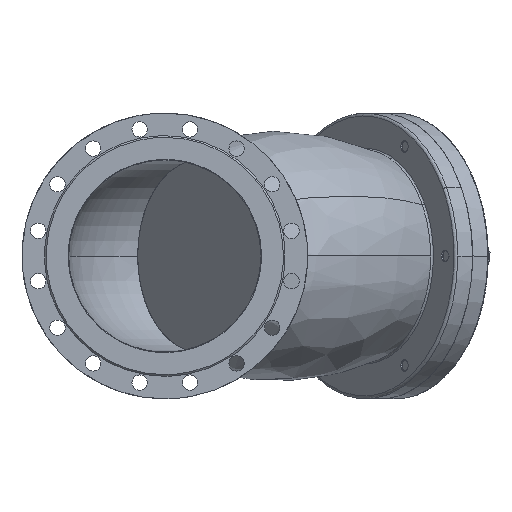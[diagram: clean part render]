
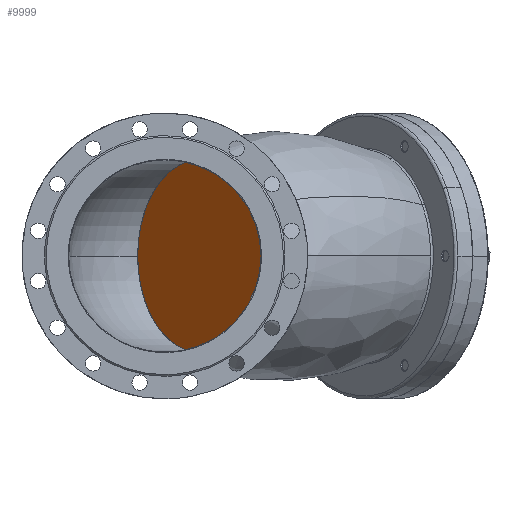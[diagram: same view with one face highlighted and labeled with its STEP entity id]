
A CAD part, left-side view. The second image highlights one B-rep face of the part: STEP entity #9999.
In plain terms, the highlighted planar face has unit normal (-0.643, 0.766, 0).
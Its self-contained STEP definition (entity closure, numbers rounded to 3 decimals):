
#692 = CARTESIAN_POINT ( 'NONE',  ( 324.696, -45.861, 178.239 ) ) ;
#716 = VERTEX_POINT ( 'NONE', #30792 ) ;
#809 = CARTESIAN_POINT ( 'NONE',  ( 177.069, -169.735, 72.959 ) ) ;
#2020 = CARTESIAN_POINT ( 'NONE',  ( 182.437, -165.231, -86.297 ) ) ;
#2260 = CARTESIAN_POINT ( 'NONE',  ( 420.126, 34.214, 96.635 ) ) ;
#2669 = EDGE_CURVE ( 'NONE', #9561, #716, #21433, .T. ) ;
#3252 = CARTESIAN_POINT ( 'NONE',  ( 297.651, -68.555, 180.226 ) ) ;
#3352 = CARTESIAN_POINT ( 'NONE',  ( 168.594, -176.847, 39.373 ) ) ;
#4185 = PLANE ( 'NONE',  #10291 ) ;
#5699 = CARTESIAN_POINT ( 'NONE',  ( 270.828, -91.062, 175.288 ) ) ;
#5805 = CARTESIAN_POINT ( 'NONE',  ( 165.301, -179.61, 4.273 ) ) ;
#7038 = ORIENTED_EDGE ( 'NONE', *, *, #23678, .F. ) ;
#8069 = CARTESIAN_POINT ( 'NONE',  ( 403.442, 20.215, 124.494 ) ) ;
#8192 = CARTESIAN_POINT ( 'NONE',  ( 245.258, -112.518, 163.613 ) ) ;
#8308 = CARTESIAN_POINT ( 'NONE',  ( 167.316, -177.919, -30.99 ) ) ;
#9561 = VERTEX_POINT ( 'NONE', #2020 ) ;
#9999 = ADVANCED_FACE ( 'NONE', ( #15542 ), #4185, .F. ) ;
#10291 = AXIS2_PLACEMENT_3D ( 'NONE', #22008, #27044, #11953 ) ;
#10292 = EDGE_LOOP ( 'NONE', ( #7038, #31524 ) ) ;
#10718 = CARTESIAN_POINT ( 'NONE',  ( 382.916, 2.991, 147.569 ) ) ;
#10832 = CARTESIAN_POINT ( 'NONE',  ( 221.924, -132.097, 145.651 ) ) ;
#10946 = CARTESIAN_POINT ( 'NONE',  ( 174.564, -171.837, -65.063 ) ) ;
#11051 = B_SPLINE_CURVE_WITH_KNOTS ( 'NONE', 3,
 ( #30727, #2260, #23407, #8069, #25905, #10718, #28361, #13325, #30836, #15965, #692, #18431, #3252, #20945, #5699, #23516, #8192, #26016, #10832, #28475, #13442, #30927, #16074, #809, #18535, #3352, #21057, #5805, #23625, #8308, #26123, #10946, #28580, #13557 ),
 .UNSPECIFIED., .F., .F.,
 ( 4, 2, 2, 2, 2, 2, 2, 2, 2, 2, 2, 2, 2, 2, 2, 2, 4 ),
 ( 0., 0.062, 0.125, 0.187, 0.25, 0.312, 0.375, 0.437, 0.5, 0.562, 0.625, 0.687, 0.75, 0.812, 0.875, 0.937, 1. ),
 .UNSPECIFIED. ) ;
#11953 = DIRECTION ( 'NONE',  ( 0.766, 0.643, 0. ) ) ;
#13325 = CARTESIAN_POINT ( 'NONE',  ( 359.335, -16.796, 164.972 ) ) ;
#13442 = CARTESIAN_POINT ( 'NONE',  ( 201.724, -149.048, 122.091 ) ) ;
#13557 = CARTESIAN_POINT ( 'NONE',  ( 182.437, -165.231, -86.297 ) ) ;
#15542 = FACE_OUTER_BOUND ( 'NONE', #10292, .T. ) ;
#15965 = CARTESIAN_POINT ( 'NONE',  ( 333.606, -38.385, 176.036 ) ) ;
#16074 = CARTESIAN_POINT ( 'NONE',  ( 185.432, -162.718, 93.839 ) ) ;
#18431 = CARTESIAN_POINT ( 'NONE',  ( 306.718, -60.946, 180.334 ) ) ;
#18535 = CARTESIAN_POINT ( 'NONE',  ( 173.675, -172.583, 61.982 ) ) ;
#20945 = CARTESIAN_POINT ( 'NONE',  ( 279.705, -83.613, 177.703 ) ) ;
#21057 = CARTESIAN_POINT ( 'NONE',  ( 166.906, -178.263, 27.742 ) ) ;
#21433 = B_SPLINE_CURVE_WITH_KNOTS ( 'NONE', 3,
 ( #29693, #29333, #29296, #29234, #29194, #29187, #29085, #29080, #29052, #29014, #28977, #28972, #28949, #28915, #28875, #28870, #28843, #28804, #28764, #28758, #28733, #28693, #28652, #28623, #28586, #28546, #28541, #28508, #28482, #28434, #28412, #28396, #28368, #28329 ),
 .UNSPECIFIED., .F., .F.,
 ( 4, 2, 2, 2, 2, 2, 2, 2, 2, 2, 2, 2, 2, 2, 2, 2, 4 ),
 ( 0., 0.063, 0.125, 0.188, 0.25, 0.313, 0.375, 0.438, 0.5, 0.563, 0.625, 0.688, 0.75, 0.813, 0.875, 0.938, 1. ),
 .UNSPECIFIED. ) ;
#22008 = CARTESIAN_POINT ( 'NONE',  ( 156.739, -186.794, 0. ) ) ;
#23407 = CARTESIAN_POINT ( 'NONE',  ( 415.02, 29.929, 106.418 ) ) ;
#23516 = CARTESIAN_POINT ( 'NONE',  ( 253.604, -105.515, 168.243 ) ) ;
#23625 = CARTESIAN_POINT ( 'NONE',  ( 165.383, -179.541, -7.564 ) ) ;
#23678 = EDGE_CURVE ( 'NONE', #716, #9561, #11051, .T. ) ;
#25905 = CARTESIAN_POINT ( 'NONE',  ( 396.972, 14.785, 132.788 ) ) ;
#26016 = CARTESIAN_POINT ( 'NONE',  ( 229.418, -125.809, 152.317 ) ) ;
#26123 = CARTESIAN_POINT ( 'NONE',  ( 169.167, -176.366, -42.579 ) ) ;
#27044 = DIRECTION ( 'NONE',  ( 0.643, -0.766, 0. ) ) ;
#28329 = CARTESIAN_POINT ( 'NONE',  ( 424.453, 37.845, 86.297 ) ) ;
#28361 = CARTESIAN_POINT ( 'NONE',  ( 375.33, -3.374, 154.055 ) ) ;
#28368 = CARTESIAN_POINT ( 'NONE',  ( 428.78, 41.475, 75.958 ) ) ;
#28396 = CARTESIAN_POINT ( 'NONE',  ( 432.326, 44.451, 65.063 ) ) ;
#28412 = CARTESIAN_POINT ( 'NONE',  ( 437.723, 48.98, 42.579 ) ) ;
#28434 = CARTESIAN_POINT ( 'NONE',  ( 439.573, 50.532, 30.99 ) ) ;
#28475 = CARTESIAN_POINT ( 'NONE',  ( 208.077, -143.716, 130.537 ) ) ;
#28482 = CARTESIAN_POINT ( 'NONE',  ( 441.506, 52.154, 7.564 ) ) ;
#28508 = CARTESIAN_POINT ( 'NONE',  ( 441.589, 52.224, -4.273 ) ) ;
#28541 = CARTESIAN_POINT ( 'NONE',  ( 439.984, 50.877, -27.742 ) ) ;
#28546 = CARTESIAN_POINT ( 'NONE',  ( 438.296, 49.46, -39.373 ) ) ;
#28580 = CARTESIAN_POINT ( 'NONE',  ( 178.11, -168.862, -75.958 ) ) ;
#28586 = CARTESIAN_POINT ( 'NONE',  ( 433.215, 45.196, -61.982 ) ) ;
#28623 = CARTESIAN_POINT ( 'NONE',  ( 429.821, 42.349, -72.959 ) ) ;
#28652 = CARTESIAN_POINT ( 'NONE',  ( 421.458, 35.332, -93.839 ) ) ;
#28693 = CARTESIAN_POINT ( 'NONE',  ( 416.489, 31.162, -103.742 ) ) ;
#28733 = CARTESIAN_POINT ( 'NONE',  ( 405.166, 21.661, -122.091 ) ) ;
#28758 = CARTESIAN_POINT ( 'NONE',  ( 398.813, 16.33, -130.537 ) ) ;
#28764 = CARTESIAN_POINT ( 'NONE',  ( 384.966, 4.711, -145.651 ) ) ;
#28804 = CARTESIAN_POINT ( 'NONE',  ( 377.472, -1.577, -152.317 ) ) ;
#28843 = CARTESIAN_POINT ( 'NONE',  ( 361.632, -14.868, -163.613 ) ) ;
#28870 = CARTESIAN_POINT ( 'NONE',  ( 353.286, -21.871, -168.243 ) ) ;
#28875 = CARTESIAN_POINT ( 'NONE',  ( 336.062, -36.324, -175.288 ) ) ;
#28915 = CARTESIAN_POINT ( 'NONE',  ( 327.185, -43.773, -177.703 ) ) ;
#28949 = CARTESIAN_POINT ( 'NONE',  ( 309.239, -58.831, -180.226 ) ) ;
#28972 = CARTESIAN_POINT ( 'NONE',  ( 300.171, -66.44, -180.335 ) ) ;
#28977 = CARTESIAN_POINT ( 'NONE',  ( 282.193, -81.525, -178.239 ) ) ;
#29014 = CARTESIAN_POINT ( 'NONE',  ( 273.284, -89.001, -176.036 ) ) ;
#29052 = CARTESIAN_POINT ( 'NONE',  ( 255.964, -103.534, -169.402 ) ) ;
#29080 = CARTESIAN_POINT ( 'NONE',  ( 247.555, -110.59, -164.972 ) ) ;
#29085 = CARTESIAN_POINT ( 'NONE',  ( 231.56, -124.012, -154.055 ) ) ;
#29187 = CARTESIAN_POINT ( 'NONE',  ( 223.974, -130.377, -147.569 ) ) ;
#29194 = CARTESIAN_POINT ( 'NONE',  ( 209.918, -142.172, -132.788 ) ) ;
#29234 = CARTESIAN_POINT ( 'NONE',  ( 203.447, -147.601, -124.494 ) ) ;
#29296 = CARTESIAN_POINT ( 'NONE',  ( 191.87, -157.316, -106.418 ) ) ;
#29333 = CARTESIAN_POINT ( 'NONE',  ( 186.764, -161.601, -96.635 ) ) ;
#29693 = CARTESIAN_POINT ( 'NONE',  ( 182.437, -165.231, -86.297 ) ) ;
#30727 = CARTESIAN_POINT ( 'NONE',  ( 424.453, 37.845, 86.297 ) ) ;
#30792 = CARTESIAN_POINT ( 'NONE',  ( 424.453, 37.845, 86.297 ) ) ;
#30836 = CARTESIAN_POINT ( 'NONE',  ( 350.926, -23.852, 169.402 ) ) ;
#30927 = CARTESIAN_POINT ( 'NONE',  ( 190.401, -158.548, 103.742 ) ) ;
#31524 = ORIENTED_EDGE ( 'NONE', *, *, #2669, .F. ) ;
